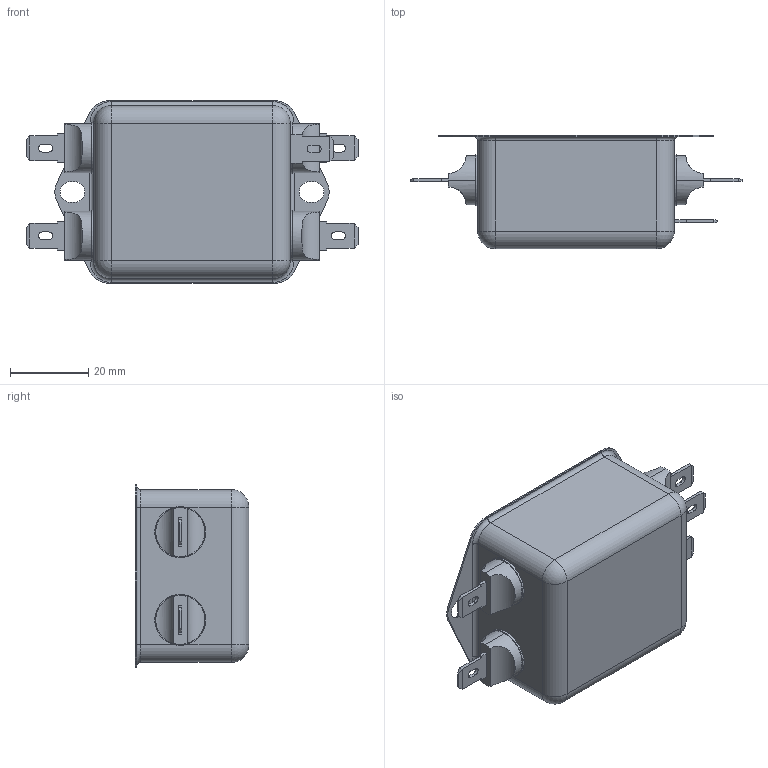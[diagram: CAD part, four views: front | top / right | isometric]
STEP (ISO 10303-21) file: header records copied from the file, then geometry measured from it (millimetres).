
FILE_DESCRIPTION (( 'STEP AP214' ), '1' );
FILE_NAME ('FIHMAXXC1F.STEP', '2018-12-18T04:38:24', ( 'Kenny' ), ( '' ), 'SwSTEP 2.0', 'SolidWorks 2018', '' );
FILE_SCHEMA (( 'AUTOMOTIVE_DESIGN' ));
Length unit declared in the file: millimetre
Products named in the file (1): FIHMAXXC1F
Bounding box: 84.7 x 29 x 46.6 mm (x, y, z)
Volume: 8094.1 mm3; surface area: 22684.7 mm2
Topology: 7 solids, 7 shells, 328 faces, 795 edges, 476 vertices
Faces by surface type: plane 168, cylinder 120, sphere 20, torus 16, bspline 4
Entity records: 13977 total; most frequent: CARTESIAN_POINT 2528, DIRECTION 1671, ORIENTED_EDGE 1550, EDGE_CURVE 775, AXIS2_PLACEMENT_3D 579, LINE 513, VECTOR 513, VERTEX_POINT 476
